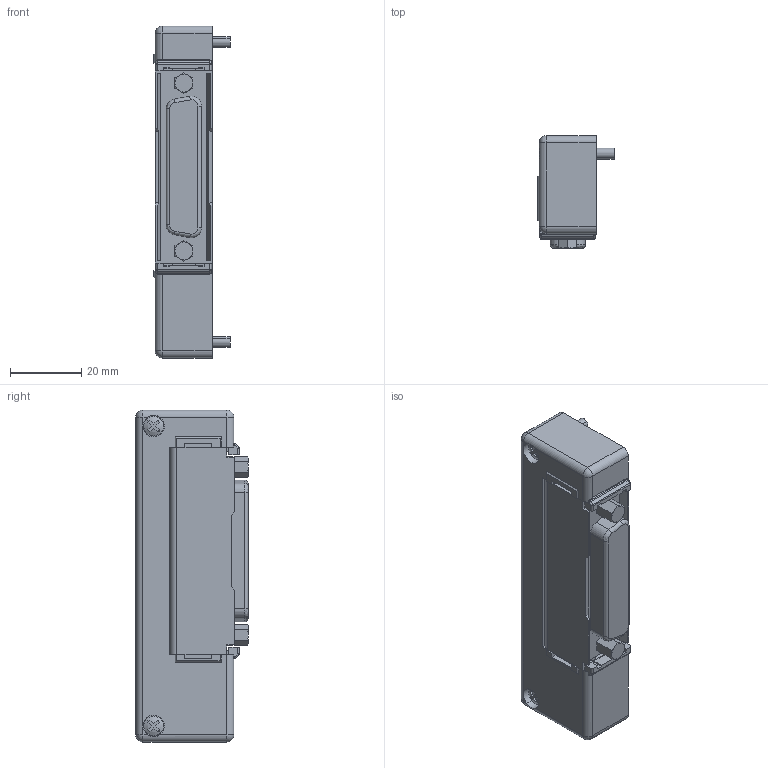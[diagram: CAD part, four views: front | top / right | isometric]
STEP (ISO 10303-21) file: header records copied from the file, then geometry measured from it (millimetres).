
FILE_DESCRIPTION( (''), '2;1');
FILE_NAME ('CVICAD02.288.FZX-D25x-N_11461.stp','2020-08-31T10:46:47',(''),(''),'spGate 12.6.6','','');
FILE_SCHEMA (('AUTOMOTIVE_DESIGN'));
Length unit declared in the file: millimetre
Products named in the file (3): Assembly; CVICAD02-prt0; CVICAD02-prt1
Assembly tree (2 placements, depth 2):
  Assembly
    CVICAD02-prt0
    CVICAD02-prt1
Bounding box: 21.4 x 31.5 x 93 mm (x, y, z)
Volume: 35991.7 mm3; surface area: 14069.7 mm2
Topology: 2 solids, 2 shells, 309 faces, 882 edges, 560 vertices
Faces by surface type: plane 211, cylinder 61, bspline 21, sphere 16
Entity records: 17000 total; most frequent: CARTESIAN_POINT 2187, ORIENTED_EDGE 1740, DIRECTION 1594, COLOUR_RGB 1181, PRESENTATION_STYLE_ASSIGNMENT 1181, STYLED_ITEM 1181, EDGE_CURVE 870, DRAUGHTING_PRE_DEFINED_CURVE_FONT 870
